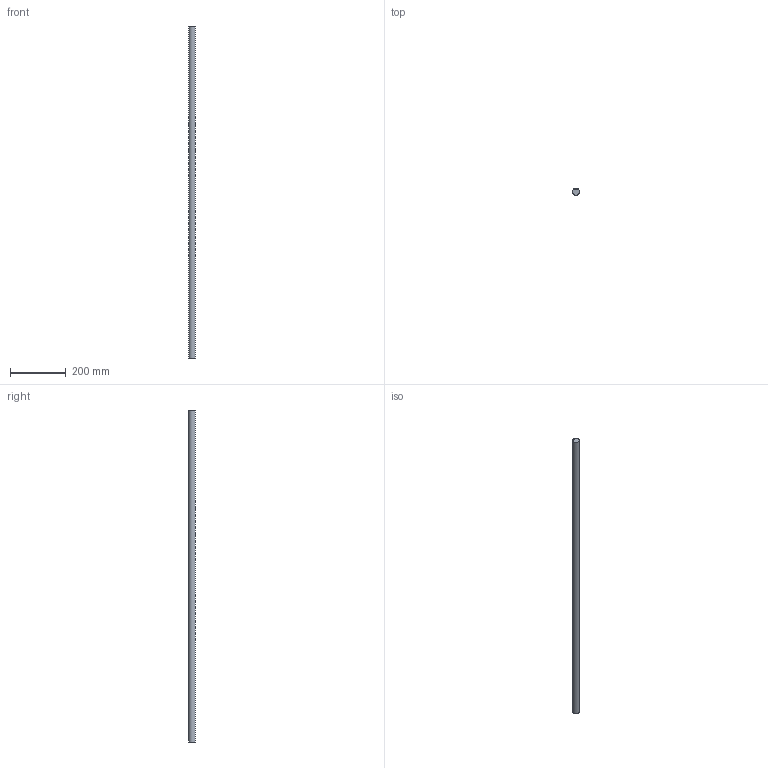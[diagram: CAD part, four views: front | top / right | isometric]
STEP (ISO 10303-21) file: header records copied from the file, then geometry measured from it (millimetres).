
FILE_DESCRIPTION(/* description */ (''),/* implementation_level */ '2;1');
FILE_NAME(/* name */ 'S:\UFFICIO TECNICO 2019\PRODOTTI ROTALIANA\SOUVLAKI\CONFIGURATORE\FILES X CONFIGURATORE\ipt INVENTOR\ASVBL002_binario LED 1190mm.stp',/* time_stamp */ '2024-03-13T10:15:04+01:00',/* author */ ('mtesta'),/* organization */ (''),/* preprocessor_version */ 'ST-DEVELOPER v18.1',/* originating_system */ 'Autodesk Inventor 2021',/* authorisation */ '');
FILE_SCHEMA (('AUTOMOTIVE_DESIGN { 1 0 10303 214 3 1 1 }'));
Length unit declared in the file: millimetre
Products named in the file (1): A05596
Bounding box: 24.97 x 25.05 x 1190 mm (x, y, z)
Volume: 543506.4 mm3; surface area: 132806.3 mm2
Topology: 2 solids, 2 shells, 26 faces, 66 edges, 44 vertices
Faces by surface type: plane 13, cylinder 13
Entity records: 865 total; most frequent: DIRECTION 146, CARTESIAN_POINT 137, ORIENTED_EDGE 132, EDGE_CURVE 66, AXIS2_PLACEMENT_3D 53, VERTEX_POINT 44, LINE 40, VECTOR 40
